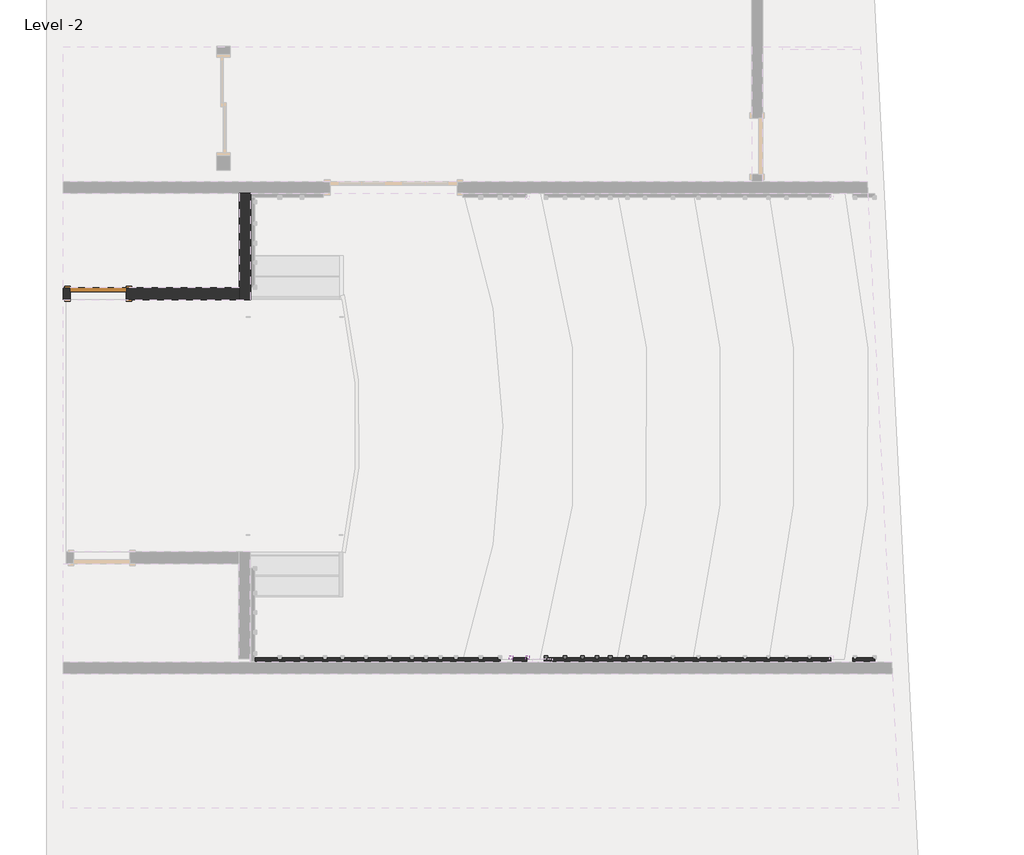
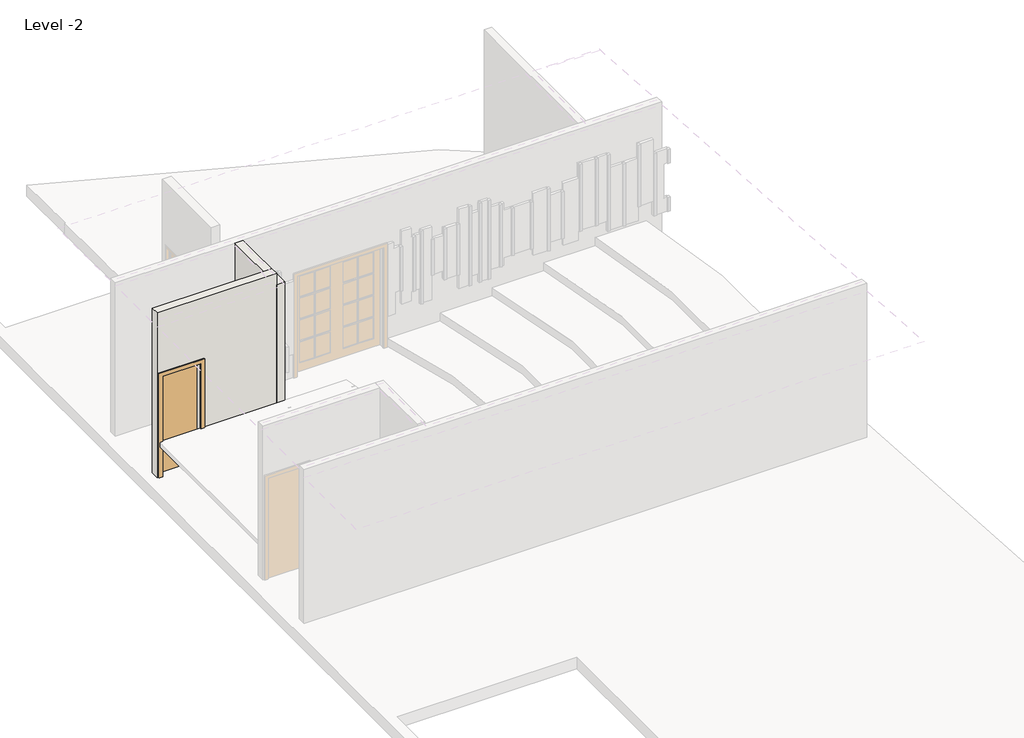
# One storey, part 2 of 6: 9 proxies, 3 walls, 1 door.
"""IFC4 building model written with IfcOpenShell, lengths in millimetres."""

from ifc_helpers import new_model, si_unit, frame, origin, place, context, project, spatial, polyline, outline, extrude, faceted_brep, transform, mapped, element, save
from components import m_single_flush_0762_x_2134mm_6e0fa8c7

model = new_model("IFC4")

# Units and contexts
model_context = context("Model", 3, world=origin())
ifc_project = project(units=[si_unit("LENGTHUNIT", "METRE", prefix="MILLI")], contexts=[model_context])

# Site, building, storey
site = spatial("IfcSite", under=ifc_project)
building = spatial("IfcBuilding", under=site)
storey = spatial("IfcBuildingStorey", under=building, Name="Level -2", Elevation=-7000.0)

# Proxies
placement = place(None, origin())
element("IfcBuildingElementProxy", 1, Name="Reveal", ObjectType="Reveal", at=placement, inside=storey, context=model_context, shape_type="SweptSolid", body=[
    extrude(outline(polyline([(6762.0430077, 180.1293333), (6762.0430077, 230.1293333), (6812.0430077, 230.1293333), (6812.0430077, 180.1293333), (6762.0430077, 180.1293333)])), frame((0.0, 0.0, -5930.7275331), z_axis=(0.0, 0.0, 1.0), x_axis=(1.0, 0.0, 0.0)), (0.0, 0.0, 1.0), 1080.0),
])
element("IfcBuildingElementProxy", 2, Name="Reveal", ObjectType="Reveal", at=placement, inside=storey, context=model_context, shape_type="SweptSolid", body=[
    extrude(outline(polyline([(7197.0430077, 180.1293333), (7197.0430077, 230.1293333), (7247.0430077, 230.1293333), (7247.0430077, 180.1293333), (7197.0430077, 180.1293333)])), frame((0.0, 0.0, -6230.7275331), z_axis=(0.0, 0.0, 1.0), x_axis=(1.0, 0.0, 0.0)), (0.0, 0.0, 1.0), 1680.0),
])
element("IfcBuildingElementProxy", 3, Name="Reveal", ObjectType="Reveal", at=placement, inside=storey, context=model_context, shape_type="SweptSolid", body=[
    extrude(outline(polyline([(6997.0430077, 180.1293333), (6997.0430077, 230.1293333), (7047.0430077, 230.1293333), (7047.0430077, 180.1293333), (6997.0430077, 180.1293333)])), frame((0.0, 0.0, -6230.7275331), z_axis=(0.0, 0.0, 1.0), x_axis=(1.0, 0.0, 0.0)), (0.0, 0.0, 1.0), 1680.0),
])
element("IfcBuildingElementProxy", 4, Name="Reveal", ObjectType="Reveal", at=placement, inside=storey, context=model_context, shape_type="SweptSolid", body=[
    extrude(outline(polyline([(6502.3539947, 180.1293333), (6502.3539947, 230.1293333), (6552.3539947, 230.1293333), (6552.3539947, 180.1293333), (6502.3539947, 180.1293333)])), frame((0.0, 0.0, -5930.7275331), z_axis=(0.0, 0.0, 1.0), x_axis=(1.0, 0.0, 0.0)), (0.0, 0.0, 1.0), 1080.0),
])
element("IfcBuildingElementProxy", 5, Name="Reveal", ObjectType="Reveal", at=placement, inside=storey, context=model_context, shape_type="SweptSolid", body=[
    extrude(outline(polyline([(6252.0430077, 180.1293333), (6252.0430077, 230.1293333), (6302.0430077, 230.1293333), (6302.0430077, 180.1293333), (6252.0430077, 180.1293333)])), frame((0.0, 0.0, -5630.7275331), z_axis=(0.0, 0.0, 1.0), x_axis=(1.0, 0.0, 0.0)), (0.0, 0.0, 1.0), 480.0),
])
element("IfcBuildingElementProxy", 6, Name="Reveal", ObjectType="Reveal", at=placement, inside=storey, context=model_context, shape_type="SweptSolid", body=[
    extrude(outline(polyline([(6027.0430077, 180.1293333), (6027.0430077, 230.1293333), (6077.0430077, 230.1293333), (6077.0430077, 180.1293333), (6027.0430077, 180.1293333)])), frame((0.0, 0.0, -5630.7275331), z_axis=(0.0, 0.0, 1.0), x_axis=(1.0, 0.0, 0.0)), (0.0, 0.0, 1.0), 480.0),
])
element("IfcBuildingElementProxy", 7, Name="Reveal", ObjectType="Reveal", at=placement, inside=storey, context=model_context, shape_type="SweptSolid", body=[
    extrude(outline(polyline([(7612.3539947, 180.1293333), (7612.3539947, 230.1293333), (7662.3539947, 230.1293333), (7662.3539947, 180.1293333), (7612.3539947, 180.1293333)])), frame((0.0, 0.0, -6050.7275331), z_axis=(0.0, 0.0, 1.0), x_axis=(1.0, 0.0, 0.0)), (0.0, 0.0, 1.0), 1320.0),
])
element("IfcBuildingElementProxy", 8, Name="Reveal", ObjectType="Reveal", at=placement, inside=storey, context=model_context, shape_type="SweptSolid", body=[
    extrude(outline(polyline([(7377.0430077, 180.1293333), (7377.0430077, 230.1293333), (7427.0430077, 230.1293333), (7427.0430077, 180.1293333), (7377.0430077, 180.1293333)])), frame((0.0, 0.0, -6230.7275331), z_axis=(0.0, 0.0, 1.0), x_axis=(1.0, 0.0, 0.0)), (0.0, 0.0, 1.0), 1680.0),
])
element("IfcBuildingElementProxy", 9, Name="Reveal", ObjectType="Reveal", at=placement, inside=storey, context=model_context, shape_type="SweptSolid", body=[
    extrude(outline(polyline([(7852.3539947, 180.1293333), (7852.3539947, 230.1293333), (7902.3539947, 230.1293333), (7902.3539947, 180.1293333), (7852.3539947, 180.1293333)])), frame((0.0, 0.0, -5890.7275331), z_axis=(0.0, 0.0, 1.0), x_axis=(1.0, 0.0, 0.0)), (0.0, 0.0, 1.0), 1000.0),
])

# Door
m_single_flush_0762_x_2134mm_shape = m_single_flush_0762_x_2134mm_6e0fa8c7(model_context)
element("IfcDoor", 10, ObjectType="M_Single-Flush : 0762 x 2134mm", at=placement, inside=storey, context=model_context, shape_type="MappedRepresentation", body=[
    mapped(m_single_flush_0762_x_2134mm_shape, transform((430.9709975, 5159.4754021, -7000.0), x_axis=(-1.0, 0.0, 0.0), y_axis=(0.0, -1.0, 0.0), z_axis=(0.0, 0.0, 1.0))),
])

# Walls
element("IfcWall", 11, ObjectType="kamposite5cm", at=placement, inside=storey, context=model_context, shape_type="Brep", body=[
    faceted_brep([(10402.0430077, 155.1293333, -4430.7275331), (10402.0430077, 155.1293333, -4730.7275331), (9802.0430077, 155.1293333, -4730.7275331), (9802.0430077, 155.1293333, -4430.7275331), (9202.0430077, 155.1293333, -4430.7275331), (9202.0430077, 155.1293333, -4730.7275331), (8902.0430077, 155.1293333, -4730.7275331), (8902.0430077, 155.1293333, -4890.7275331), (8602.0430077, 155.1293333, -4890.7275331), (8602.0430077, 155.1293333, -4730.7275331), (8302.0430077, 155.1293333, -4730.7275331), (8302.0430077, 155.1293333, -4890.7275331), (7702.0430077, 155.1293333, -4890.7275331), (7702.0430077, 155.1293333, -4730.7275331), (7402.0430077, 155.1293333, -4730.7275331), (7402.0430077, 155.1293333, -4550.7275331), (7222.0430077, 155.1293333, -4550.7275331), (7222.0430077, 155.1293333, -4730.7275331), (7022.0430077, 155.1293333, -4730.7275331), (7022.0430077, 155.1293333, -4550.7275331), (6802.0430077, 155.1293333, -4550.7275331), (6802.0430077, 155.1293333, -4850.7275331), (6502.0430077, 155.1293333, -4850.7275331), (6502.0430077, 155.1293333, -5150.7275331), (6262.0430077, 155.1293333, -5150.7275331), (6262.0430077, 155.1293333, -4970.7275331), (6082.0430077, 155.1293333, -4970.7275331), (6082.0430077, 155.1293333, -5150.7275331), (5902.0430077, 155.1293333, -5150.7275331), (5902.0430077, 155.1293333, -4919.396788), (5602.0430077, 155.1293333, -4919.396788), (5302.0430077, 155.1293333, -4919.396788), (5302.0430077, 155.1293333, -4619.396788), (5091.8852546, 155.1293333, -4619.396788), (5091.8852546, 155.1293333, -4799.396788), (4891.8852546, 155.1293333, -4799.396788), (4891.8852546, 155.1293333, -4619.396788), (4702.0430077, 155.1293333, -4619.396788), (4702.0430077, 155.1293333, -4919.396788), (4402.0430077, 155.1293333, -4919.396788), (4102.0430077, 155.1293333, -4919.396788), (4102.0430077, 155.1293333, -4619.396788), (3802.0430077, 155.1293333, -4619.396788), (3802.0430077, 155.1293333, -4319.396788), (3202.0430077, 155.1293333, -4319.396788), (3202.0430077, 155.1293333, -4619.396788), (2902.0430077, 155.1293333, -4619.396788), (2902.0430077, 155.1293333, -4919.396788), (2562.3539947, 155.1293333, -4919.396788), (2562.3539947, 155.1293333, -5862.0582782), (2902.0430077, 155.1293333, -5862.0582782), (2902.0430077, 155.1293333, -6162.0582782), (3202.0430077, 155.1293333, -6162.0582782), (3202.0430077, 155.1293333, -6462.0582782), (3802.0430077, 155.1293333, -6462.0582782), (3802.0430077, 155.1293333, -6162.0582782), (4102.0430077, 155.1293333, -6162.0582782), (4102.0430077, 155.1293333, -5862.0582782), (4402.0430077, 155.1293333, -5862.0582782), (4702.0430077, 155.1293333, -5862.0582782), (4702.0430077, 155.1293333, -6162.0582782), (4891.8852546, 155.1293333, -6162.0582782), (4891.8852546, 155.1293333, -5960.603212), (5091.8852546, 155.1293333, -5960.603212), (5091.8852546, 155.1293333, -6162.0582782), (5302.0430077, 155.1293333, -6162.0582782), (5302.0430077, 155.1293333, -5862.0582782), (5602.0430077, 155.1293333, -5862.0582782), (5902.0430077, 155.1293333, -5862.0582782), (5902.0430077, 155.1293333, -5630.7275331), (6082.0430077, 155.1293333, -5630.7275331), (6082.0430077, 155.1293333, -5810.7275331), (6262.0430077, 155.1293333, -5810.7275331), (6262.0430077, 155.1293333, -5630.7275331), (6502.0430077, 155.1293333, -5630.7275331), (6502.0430077, 155.1293333, -5930.7275331), (6802.0430077, 155.1293333, -5930.7275331), (6802.0430077, 155.1293333, -6230.7275331), (7022.0430077, 155.1293333, -6230.7275331), (7022.0430077, 155.1293333, -6050.7275331), (7222.0430077, 155.1293333, -6050.7275331), (7222.0430077, 155.1293333, -6230.7275331), (7402.0430077, 155.1293333, -6230.7275331), (7402.0430077, 155.1293333, -6050.7275331), (7702.0430077, 155.1293333, -6050.7275331), (7702.0430077, 155.1293333, -5890.7275331), (8302.0430077, 155.1293333, -5890.7275331), (8302.0430077, 155.1293333, -6050.7275331), (8602.0430077, 155.1293333, -6050.7275331), (8602.0430077, 155.1293333, -5890.7275331), (8902.0430077, 155.1293333, -5890.7275331), (8902.0430077, 155.1293333, -6050.7275331), (9202.0430077, 155.1293333, -6050.7275331), (9202.0430077, 155.1293333, -5850.7275331), (9802.0430077, 155.1293333, -5850.7275331), (9802.0430077, 155.1293333, -6050.7275331), (10402.0430077, 155.1293333, -6050.7275331), (10402.0430077, 155.1293333, -5750.7275331), (10702.0430077, 155.1293333, -5750.7275331), (10702.0430077, 155.1293333, -6050.7275331), (11002.0430077, 155.1293333, -6050.7275331), (11002.0430077, 155.1293333, -5750.7275331), (11122.0430077, 155.1293333, -5750.7275331), (11122.0430077, 155.1293333, -5030.7275331), (11002.0430077, 155.1293333, -5030.7275331), (11002.0430077, 155.1293333, -4730.7275331), (10702.0430077, 155.1293333, -4730.7275331), (10702.0430077, 155.1293333, -4430.7275331), (9202.0430077, 205.1293333, -4730.7275331), (9202.0430077, 205.1293333, -4430.7275331), (9212.3539947, 205.1293333, -4430.7275331), (9212.3539947, 205.1293333, -5850.7275331), (9202.0430077, 205.1293333, -5850.7275331), (9202.0430077, 205.1293333, -6050.7275331), (8902.0430077, 205.1293333, -6050.7275331), (8902.0430077, 205.1293333, -5890.7275331), (8907.0430077, 205.1293333, -5890.7275331), (8907.0430077, 205.1293333, -4890.7275331), (8902.0430077, 205.1293333, -4890.7275331), (8902.0430077, 205.1293333, -4730.7275331), (8302.0430077, 205.1293333, -4890.7275331), (8302.0430077, 205.1293333, -4730.7275331), (8577.0430077, 205.1293333, -4730.7275331), (8577.0430077, 205.1293333, -6050.7275331), (8302.0430077, 205.1293333, -6050.7275331), (8302.0430077, 205.1293333, -5890.7275331), (8282.3539947, 205.1293333, -5890.7275331), (8282.3539947, 205.1293333, -4890.7275331), (7702.0430077, 205.1293333, -4730.7275331), (7702.0430077, 205.1293333, -4890.7275331), (7852.3539947, 205.1293333, -4890.7275331), (7852.3539947, 205.1293333, -5890.7275331), (7702.0430077, 205.1293333, -5890.7275331), (7702.0430077, 205.1293333, -6050.7275331), (7662.3539947, 205.1293333, -6050.7275331), (7662.3539947, 205.1293333, -4730.7275331), (6802.0430077, 205.1293333, -4850.7275331), (6802.0430077, 205.1293333, -4550.7275331), (6997.0430077, 205.1293333, -4550.7275331), (6997.0430077, 205.1293333, -6230.7275331), (6802.0430077, 205.1293333, -6230.7275331), (6802.0430077, 205.1293333, -5930.7275331), (6812.0430077, 205.1293333, -5930.7275331), (6812.0430077, 205.1293333, -4850.7275331), (6502.0430077, 205.1293333, -5150.7275331), (6502.0430077, 205.1293333, -4850.7275331), (6502.3539947, 205.1293333, -4850.7275331), (6502.3539947, 205.1293333, -5930.7275331), (6502.0430077, 205.1293333, -5930.7275331), (6502.0430077, 205.1293333, -5630.7275331), (6302.0430077, 205.1293333, -5630.7275331), (6302.0430077, 205.1293333, -5150.7275331), (3802.0430077, 205.1293333, -4319.396788), (3802.0430077, 205.1293333, -4619.396788), (4052.3539947, 205.1293333, -4619.396788), (4052.3539947, 205.1293333, -6162.0582782), (3802.0430077, 205.1293333, -6162.0582782), (3802.0430077, 205.1293333, -6462.0582782), (3782.3539947, 205.1293333, -6462.0582782), (3782.3539947, 205.1293333, -4319.396788), (10402.0430077, 205.1293333, -5750.7275331), (10402.0430077, 205.1293333, -6050.7275331), (10142.3539947, 205.1293333, -6050.7275331), (10142.3539947, 205.1293333, -4730.7275331), (10392.3539947, 205.1293333, -4730.7275331), (10392.3539947, 205.1293333, -5750.7275331), (10702.0430077, 205.1293333, -6050.7275331), (10702.0430077, 205.1293333, -5750.7275331), (10442.3539947, 205.1293333, -5750.7275331), (10442.3539947, 205.1293333, -4430.7275331), (10702.0430077, 205.1293333, -4430.7275331), (10702.0430077, 205.1293333, -4730.7275331), (10712.3539947, 205.1293333, -4730.7275331), (10712.3539947, 205.1293333, -6050.7275331), (11122.0430077, 205.1293333, -5030.7275331), (11122.0430077, 205.1293333, -5750.7275331), (11027.0430077, 205.1293333, -5750.7275331), (11027.0430077, 205.1293333, -5030.7275331), (2562.3539947, 205.1293333, -5862.0582782), (2562.3539947, 205.1293333, -4919.396788), (2877.0430077, 205.1293333, -4919.396788), (2877.0430077, 205.1293333, -5862.0582782), (6262.0430077, 205.1293333, -4970.7275331), (6262.0430077, 205.1293333, -5150.7275331), (6252.0430077, 205.1293333, -5150.7275331), (6252.0430077, 205.1293333, -5630.7275331), (6262.0430077, 205.1293333, -5630.7275331), (6262.0430077, 205.1293333, -5810.7275331), (6082.0430077, 205.1293333, -5810.7275331), (6082.0430077, 205.1293333, -5630.7275331), (6077.0430077, 205.1293333, -5630.7275331), (6077.0430077, 205.1293333, -5150.7275331), (6082.0430077, 205.1293333, -5150.7275331), (6082.0430077, 205.1293333, -4970.7275331), (3177.0430077, 205.1293333, -4619.396788), (3177.0430077, 205.1293333, -6162.0582782), (2927.0430077, 205.1293333, -6162.0582782), (2927.0430077, 205.1293333, -4619.396788), (3227.0430077, 205.1293333, -6462.0582782), (3227.0430077, 205.1293333, -4319.396788), (3492.3539947, 205.1293333, -4319.396788), (3492.3539947, 205.1293333, -6462.0582782), (3542.3539947, 205.1293333, -6462.0582782), (3542.3539947, 205.1293333, -4319.396788), (3732.3539947, 205.1293333, -4319.396788), (3732.3539947, 205.1293333, -6462.0582782), (4102.3539947, 205.1293333, -5862.0582782), (4102.3539947, 205.1293333, -4919.396788), (4372.3539947, 205.1293333, -4919.396788), (4372.3539947, 205.1293333, -5862.0582782), (4422.3539947, 205.1293333, -5862.0582782), (4422.3539947, 205.1293333, -4919.396788), (4677.0430077, 205.1293333, -4919.396788), (4677.0430077, 205.1293333, -5862.0582782), (4727.0430077, 205.1293333, -6162.0582782), (4727.0430077, 205.1293333, -4619.396788), (4866.8852546, 205.1293333, -4619.396788), (4866.8852546, 205.1293333, -6162.0582782), (4916.8852546, 205.1293333, -5960.603212), (4916.8852546, 205.1293333, -4799.396788), (5066.8852546, 205.1293333, -4799.396788), (5066.8852546, 205.1293333, -5960.603212), (5602.0430077, 205.1293333, -5862.0582782), (5327.0430077, 205.1293333, -5862.0582782), (5327.0430077, 205.1293333, -4919.396788), (5602.0430077, 205.1293333, -4919.396788), (5612.3539947, 205.1293333, -4919.396788), (5612.3539947, 205.1293333, -5862.0582782), (5277.0430077, 205.1293333, -4619.396788), (5277.0430077, 205.1293333, -6162.0582782), (5116.8852546, 205.1293333, -6162.0582782), (5116.8852546, 205.1293333, -4619.396788), (5662.3539947, 205.1293333, -5862.0582782), (5662.3539947, 205.1293333, -4919.396788), (5877.0430077, 205.1293333, -4919.396788), (5877.0430077, 205.1293333, -5862.0582782), (5927.0430077, 205.1293333, -5630.7275331), (5927.0430077, 205.1293333, -5150.7275331), (6027.0430077, 205.1293333, -5150.7275331), (6027.0430077, 205.1293333, -5630.7275331), (6762.0430077, 205.1293333, -4850.7275331), (6762.0430077, 205.1293333, -5930.7275331), (6552.3539947, 205.1293333, -5930.7275331), (6552.3539947, 205.1293333, -4850.7275331), (7197.0430077, 205.1293333, -4730.7275331), (7197.0430077, 205.1293333, -6050.7275331), (7047.0430077, 205.1293333, -6050.7275331), (7047.0430077, 205.1293333, -4730.7275331), (7247.0430077, 205.1293333, -6230.7275331), (7247.0430077, 205.1293333, -4550.7275331), (7377.0430077, 205.1293333, -4550.7275331), (7377.0430077, 205.1293333, -6230.7275331), (7612.3539947, 205.1293333, -4730.7275331), (7612.3539947, 205.1293333, -6050.7275331), (7427.0430077, 205.1293333, -6050.7275331), (7427.0430077, 205.1293333, -4730.7275331), (7902.3539947, 205.1293333, -5890.7275331), (7902.3539947, 205.1293333, -4890.7275331), (8232.3539947, 205.1293333, -4890.7275331), (8232.3539947, 205.1293333, -5890.7275331), (8627.0430077, 205.1293333, -5890.7275331), (8627.0430077, 205.1293333, -4890.7275331), (8857.0430077, 205.1293333, -4890.7275331), (8857.0430077, 205.1293333, -5890.7275331), (9532.3539947, 205.1293333, -4430.7275331), (9532.3539947, 205.1293333, -5850.7275331), (9262.3539947, 205.1293333, -5850.7275331), (9262.3539947, 205.1293333, -4430.7275331), (9582.3539947, 205.1293333, -5850.7275331), (9582.3539947, 205.1293333, -4430.7275331), (9777.0430077, 205.1293333, -4430.7275331), (9777.0430077, 205.1293333, -5850.7275331), (10092.3539947, 205.1293333, -4730.7275331), (10092.3539947, 205.1293333, -6050.7275331), (9827.0430077, 205.1293333, -6050.7275331), (9827.0430077, 205.1293333, -4730.7275331), (10762.3539947, 205.1293333, -6050.7275331), (10762.3539947, 205.1293333, -4730.7275331), (10977.0430077, 205.1293333, -4730.7275331), (10977.0430077, 205.1293333, -6050.7275331), (10402.0430077, 180.1293333, -4430.7275331), (10402.0430077, 180.1293333, -4730.7275331), (10392.3539947, 180.1293333, -4730.7275331), (10142.3539947, 180.1293333, -4730.7275331), (10092.3539947, 180.1293333, -4730.7275331), (9827.0430077, 180.1293333, -4730.7275331), (9802.0430077, 180.1293333, -4730.7275331), (9802.0430077, 180.1293333, -4430.7275331), (9777.0430077, 180.1293333, -4430.7275331), (9582.3539947, 180.1293333, -4430.7275331), (9532.3539947, 180.1293333, -4430.7275331), (9262.3539947, 180.1293333, -4430.7275331), (9212.3539947, 180.1293333, -4430.7275331), (8902.0430077, 180.1293333, -4890.7275331), (8857.0430077, 180.1293333, -4890.7275331), (8627.0430077, 180.1293333, -4890.7275331), (8602.0430077, 180.1293333, -4890.7275331), (8602.0430077, 180.1293333, -4730.7275331), (8577.0430077, 180.1293333, -4730.7275331), (8282.3539947, 180.1293333, -4890.7275331), (8232.3539947, 180.1293333, -4890.7275331), (7902.3539947, 180.1293333, -4890.7275331), (7852.3539947, 180.1293333, -4890.7275331), (7662.3539947, 180.1293333, -4730.7275331), (7612.3539947, 180.1293333, -4730.7275331), (7427.0430077, 180.1293333, -4730.7275331), (7402.0430077, 180.1293333, -4730.7275331), (7402.0430077, 180.1293333, -4550.7275331), (7377.0430077, 180.1293333, -4550.7275331), (7247.0430077, 180.1293333, -4550.7275331), (7222.0430077, 180.1293333, -4550.7275331), (6802.0430077, 180.1293333, -4850.7275331), (6762.0430077, 180.1293333, -4850.7275331), (6552.3539947, 180.1293333, -4850.7275331), (6502.3539947, 180.1293333, -4850.7275331), (6302.0430077, 180.1293333, -5150.7275331), (6262.0430077, 180.1293333, -5150.7275331), (5902.0430077, 180.1293333, -5150.7275331), (5902.0430077, 180.1293333, -4919.396788), (5877.0430077, 180.1293333, -4919.396788), (5662.3539947, 180.1293333, -4919.396788), (5612.3539947, 180.1293333, -4919.396788), (5327.0430077, 180.1293333, -4919.396788), (5302.0430077, 180.1293333, -4919.396788), (5302.0430077, 180.1293333, -4619.396788), (5277.0430077, 180.1293333, -4619.396788), (5116.8852546, 180.1293333, -4619.396788), (5091.8852546, 180.1293333, -4619.396788), (4891.8852546, 180.1293333, -4619.396788), (4866.8852546, 180.1293333, -4619.396788), (4727.0430077, 180.1293333, -4619.396788), (4702.0430077, 180.1293333, -4619.396788), (4702.0430077, 180.1293333, -4919.396788), (4677.0430077, 180.1293333, -4919.396788), (4422.3539947, 180.1293333, -4919.396788), (4402.0430077, 180.1293333, -4919.396788), (4372.3539947, 180.1293333, -4919.396788), (4102.3539947, 180.1293333, -4919.396788), (4102.0430077, 180.1293333, -4919.396788), (4102.0430077, 180.1293333, -4619.396788), (4052.3539947, 180.1293333, -4619.396788), (3782.3539947, 180.1293333, -4319.396788), (3732.3539947, 180.1293333, -4319.396788), (3542.3539947, 180.1293333, -4319.396788), (3492.3539947, 180.1293333, -4319.396788), (3227.0430077, 180.1293333, -4319.396788), (3202.0430077, 180.1293333, -4319.396788), (3202.0430077, 180.1293333, -4619.396788), (3177.0430077, 180.1293333, -4619.396788), (2927.0430077, 180.1293333, -4619.396788), (2902.0430077, 180.1293333, -4619.396788), (2902.0430077, 180.1293333, -4919.396788), (2877.0430077, 180.1293333, -4919.396788), (2877.0430077, 180.1293333, -5862.0582782), (2902.0430077, 180.1293333, -5862.0582782), (2902.0430077, 180.1293333, -6162.0582782), (2927.0430077, 180.1293333, -6162.0582782), (3177.0430077, 180.1293333, -6162.0582782), (3202.0430077, 180.1293333, -6162.0582782), (3202.0430077, 180.1293333, -6462.0582782), (3227.0430077, 180.1293333, -6462.0582782), (3492.3539947, 180.1293333, -6462.0582782), (3542.3539947, 180.1293333, -6462.0582782), (3732.3539947, 180.1293333, -6462.0582782), (3782.3539947, 180.1293333, -6462.0582782), (4052.3539947, 180.1293333, -6162.0582782), (4102.0430077, 180.1293333, -6162.0582782), (4102.0430077, 180.1293333, -5862.0582782), (4102.3539947, 180.1293333, -5862.0582782), (4372.3539947, 180.1293333, -5862.0582782), (4402.0430077, 180.1293333, -5862.0582782), (4422.3539947, 180.1293333, -5862.0582782), (4677.0430077, 180.1293333, -5862.0582782), (4702.0430077, 180.1293333, -5862.0582782), (4702.0430077, 180.1293333, -6162.0582782), (4727.0430077, 180.1293333, -6162.0582782), (4866.8852546, 180.1293333, -6162.0582782), (4891.8852546, 180.1293333, -6162.0582782), (5091.8852546, 180.1293333, -6162.0582782), (5116.8852546, 180.1293333, -6162.0582782), (5277.0430077, 180.1293333, -6162.0582782), (5302.0430077, 180.1293333, -6162.0582782), (5302.0430077, 180.1293333, -5862.0582782), (5327.0430077, 180.1293333, -5862.0582782), (5612.3539947, 180.1293333, -5862.0582782), (5662.3539947, 180.1293333, -5862.0582782), (5877.0430077, 180.1293333, -5862.0582782), (5902.0430077, 180.1293333, -5862.0582782), (5902.0430077, 180.1293333, -5630.7275331), (6262.0430077, 180.1293333, -5630.7275331), (6302.0430077, 180.1293333, -5630.7275331), (6502.3539947, 180.1293333, -5930.7275331), (6552.3539947, 180.1293333, -5930.7275331), (6762.0430077, 180.1293333, -5930.7275331), (6802.0430077, 180.1293333, -5930.7275331), (7222.0430077, 180.1293333, -6230.7275331), (7247.0430077, 180.1293333, -6230.7275331), (7377.0430077, 180.1293333, -6230.7275331), (7402.0430077, 180.1293333, -6230.7275331), (7402.0430077, 180.1293333, -6050.7275331), (7427.0430077, 180.1293333, -6050.7275331), (7612.3539947, 180.1293333, -6050.7275331), (7662.3539947, 180.1293333, -6050.7275331), (7852.3539947, 180.1293333, -5890.7275331), (7902.3539947, 180.1293333, -5890.7275331), (8232.3539947, 180.1293333, -5890.7275331), (8282.3539947, 180.1293333, -5890.7275331), (8577.0430077, 180.1293333, -6050.7275331), (8602.0430077, 180.1293333, -6050.7275331), (8602.0430077, 180.1293333, -5890.7275331), (8627.0430077, 180.1293333, -5890.7275331), (8857.0430077, 180.1293333, -5890.7275331), (8902.0430077, 180.1293333, -5890.7275331), (9212.3539947, 180.1293333, -5850.7275331), (9262.3539947, 180.1293333, -5850.7275331), (9532.3539947, 180.1293333, -5850.7275331), (9582.3539947, 180.1293333, -5850.7275331), (9777.0430077, 180.1293333, -5850.7275331), (9802.0430077, 180.1293333, -5850.7275331), (9802.0430077, 180.1293333, -6050.7275331), (9827.0430077, 180.1293333, -6050.7275331), (10092.3539947, 180.1293333, -6050.7275331), (10142.3539947, 180.1293333, -6050.7275331), (10402.0430077, 180.1293333, -5750.7275331), (10442.3539947, 180.1293333, -5750.7275331), (10712.3539947, 180.1293333, -6050.7275331), (10762.3539947, 180.1293333, -6050.7275331), (10977.0430077, 180.1293333, -6050.7275331), (11002.0430077, 180.1293333, -6050.7275331), (11002.0430077, 180.1293333, -5750.7275331), (11027.0430077, 180.1293333, -5750.7275331), (11027.0430077, 180.1293333, -5030.7275331), (11002.0430077, 180.1293333, -5030.7275331), (11002.0430077, 180.1293333, -4730.7275331), (10977.0430077, 180.1293333, -4730.7275331), (10762.3539947, 180.1293333, -4730.7275331), (10712.3539947, 180.1293333, -4730.7275331), (10442.3539947, 180.1293333, -4430.7275331), (7222.0430077, 180.1293333, -4730.7275331), (7197.0430077, 180.1293333, -4730.7275331), (7047.0430077, 180.1293333, -4730.7275331), (7022.0430077, 180.1293333, -4730.7275331), (7022.0430077, 180.1293333, -4550.7275331), (6997.0430077, 180.1293333, -4550.7275331), (5091.8852546, 180.1293333, -4799.396788), (5066.8852546, 180.1293333, -4799.396788), (4916.8852546, 180.1293333, -4799.396788), (4891.8852546, 180.1293333, -4799.396788), (4891.8852546, 180.1293333, -5960.603212), (4916.8852546, 180.1293333, -5960.603212), (5066.8852546, 180.1293333, -5960.603212), (5091.8852546, 180.1293333, -5960.603212), (6997.0430077, 180.1293333, -6230.7275331), (7022.0430077, 180.1293333, -6230.7275331), (7022.0430077, 180.1293333, -6050.7275331), (7047.0430077, 180.1293333, -6050.7275331), (7197.0430077, 180.1293333, -6050.7275331), (7222.0430077, 180.1293333, -6050.7275331), (6077.0430077, 180.1293333, -5150.7275331), (6027.0430077, 180.1293333, -5150.7275331), (5927.0430077, 180.1293333, -5150.7275331), (5927.0430077, 180.1293333, -5630.7275331), (6027.0430077, 180.1293333, -5630.7275331), (6077.0430077, 180.1293333, -5630.7275331), (6812.0430077, 180.1293333, -5930.7275331), (6812.0430077, 180.1293333, -4850.7275331), (6252.0430077, 180.1293333, -5630.7275331), (6252.0430077, 180.1293333, -5150.7275331), (8907.0430077, 180.1293333, -5890.7275331), (8907.0430077, 180.1293333, -4890.7275331), (10392.3539947, 180.1293333, -5750.7275331)], [[[0, 1, 2, 3, 4, 5, 6, 7, 8, 9, 10, 11, 12, 13, 14, 15, 16, 17, 18, 19, 20, 21, 22, 23, 24, 25, 26, 27, 28, 29, 30, 31, 32, 33, 34, 35, 36, 37, 38, 39, 40, 41, 42, 43, 44, 45, 46, 47, 48, 49, 50, 51, 52, 53, 54, 55, 56, 57, 58, 59, 60, 61, 62, 63, 64, 65, 66, 67, 68, 69, 70, 71, 72, 73, 74, 75, 76, 77, 78, 79, 80, 81, 82, 83, 84, 85, 86, 87, 88, 89, 90, 91, 92, 93, 94, 95, 96, 97, 98, 99, 100, 101, 102, 103, 104, 105, 106, 107]], [[108, 109, 110, 111, 112, 113, 114, 115, 116, 117, 118, 119]], [[120, 121, 122, 123, 124, 125, 126, 127]], [[128, 129, 130, 131, 132, 133, 134, 135]], [[136, 137, 138, 139, 140, 141, 142, 143]], [[144, 145, 146, 147, 148, 149, 150, 151]], [[152, 153, 154, 155, 156, 157, 158, 159]], [[160, 161, 162, 163, 164, 165]], [[166, 167, 168, 169, 170, 171, 172, 173]], [[174, 175, 176, 177]], [[178, 179, 180, 181]], [[182, 183, 184, 185, 186, 187, 188, 189, 190, 191, 192, 193]], [[194, 195, 196, 197]], [[198, 199, 200, 201]], [[202, 203, 204, 205]], [[206, 207, 208, 209]], [[210, 211, 212, 213]], [[214, 215, 216, 217]], [[218, 219, 220, 221]], [[222, 223, 224, 225, 226, 227]], [[228, 229, 230, 231]], [[232, 233, 234, 235]], [[236, 237, 238, 239]], [[240, 241, 242, 243]], [[244, 245, 246, 247]], [[248, 249, 250, 251]], [[252, 253, 254, 255]], [[256, 257, 258, 259]], [[260, 261, 262, 263]], [[264, 265, 266, 267]], [[268, 269, 270, 271]], [[272, 273, 274, 275]], [[276, 277, 278, 279]], [[1, 0, 280, 281]], [[2, 1, 281, 282, 164, 163, 283, 284, 272, 275, 285, 286]], [[3, 2, 286, 287]], [[4, 3, 287, 288, 270, 269, 289, 290, 264, 267, 291, 292, 110, 109]], [[5, 4, 109, 108]], [[6, 5, 108, 119]], [[7, 6, 119, 118, 293]], [[8, 7, 293, 294, 262, 261, 295, 296]], [[9, 8, 296, 297]], [[10, 9, 297, 298, 122, 121]], [[11, 10, 121, 120]], [[12, 11, 120, 127, 299, 300, 258, 257, 301, 302, 130, 129]], [[13, 12, 129, 128]], [[14, 13, 128, 135, 303, 304, 252, 255, 305, 306]], [[15, 14, 306, 307]], [[16, 15, 307, 308, 250, 249, 309, 310]], [[21, 20, 137, 136, 311]], [[22, 21, 311, 312, 240, 243, 313, 314, 146, 145]], [[23, 22, 145, 144]], [[24, 23, 144, 151, 315, 316]], [[29, 28, 317, 318]], [[30, 29, 318, 319, 234, 233, 320, 321, 226, 225]], [[31, 30, 225, 224, 322, 323]], [[32, 31, 323, 324]], [[33, 32, 324, 325, 228, 231, 326, 327]], [[37, 36, 328, 329, 216, 215, 330, 331]], [[38, 37, 331, 332]], [[39, 38, 332, 333, 212, 211, 334, 335]], [[40, 39, 335, 336, 208, 207, 337, 338]], [[41, 40, 338, 339]], [[42, 41, 339, 340, 154, 153]], [[43, 42, 153, 152]], [[44, 43, 152, 159, 341, 342, 204, 203, 343, 344, 200, 199, 345, 346]], [[45, 44, 346, 347]], [[46, 45, 347, 348, 194, 197, 349, 350]], [[47, 46, 350, 351]], [[48, 47, 351, 352, 180, 179]], [[50, 49, 178, 181, 353, 354]], [[51, 50, 354, 355]], [[52, 51, 355, 356, 196, 195, 357, 358]], [[53, 52, 358, 359]], [[54, 53, 359, 360, 198, 201, 361, 362, 202, 205, 363, 364, 158, 157]], [[55, 54, 157, 156]], [[56, 55, 156, 155, 365, 366]], [[57, 56, 366, 367]], [[58, 57, 367, 368, 206, 209, 369, 370]], [[59, 58, 370, 371, 210, 213, 372, 373]], [[60, 59, 373, 374]], [[61, 60, 374, 375, 214, 217, 376, 377]], [[65, 64, 378, 379, 230, 229, 380, 381]], [[66, 65, 381, 382]], [[67, 66, 382, 383, 223, 222]], [[68, 67, 222, 227, 384, 385, 232, 235, 386, 387]], [[69, 68, 387, 388]], [[74, 73, 389, 390, 150, 149]], [[75, 74, 149, 148]], [[76, 75, 148, 147, 391, 392, 242, 241, 393, 394]], [[77, 76, 394, 141, 140]], [[82, 81, 395, 396, 248, 251, 397, 398]], [[83, 82, 398, 399]], [[84, 83, 399, 400, 254, 253, 401, 402, 134, 133]], [[85, 84, 133, 132]], [[86, 85, 132, 131, 403, 404, 256, 259, 405, 406, 126, 125]], [[87, 86, 125, 124]], [[88, 87, 124, 123, 407, 408]], [[89, 88, 408, 409]], [[90, 89, 409, 410, 260, 263, 411, 412]], [[91, 90, 412, 115, 114]], [[92, 91, 114, 113]], [[93, 92, 113, 112]], [[94, 93, 112, 111, 413, 414, 266, 265, 415, 416, 268, 271, 417, 418]], [[95, 94, 418, 419]], [[96, 95, 419, 420, 274, 273, 421, 422, 162, 161]], [[97, 96, 161, 160, 423]], [[98, 97, 423, 424, 168, 167]], [[99, 98, 167, 166]], [[100, 99, 166, 173, 425, 426, 276, 279, 427, 428]], [[101, 100, 428, 429]], [[102, 101, 429, 430, 176, 175]], [[103, 102, 175, 174]], [[104, 103, 174, 177, 431, 432]], [[105, 104, 432, 433]], [[106, 105, 433, 434, 278, 277, 435, 436, 172, 171]], [[107, 106, 171, 170]], [[0, 107, 170, 169, 437, 280]], [[49, 48, 179, 178]], [[17, 16, 310, 438]], [[18, 17, 438, 439, 244, 247, 440, 441]], [[19, 18, 441, 442]], [[20, 19, 442, 443, 138, 137]], [[34, 33, 327, 444]], [[35, 34, 444, 445, 220, 219, 446, 447]], [[36, 35, 447, 328]], [[62, 61, 377, 448]], [[63, 62, 448, 449, 218, 221, 450, 451]], [[64, 63, 451, 378]], [[78, 77, 140, 139, 452, 453]], [[79, 78, 453, 454]], [[80, 79, 454, 455, 246, 245, 456, 457]], [[81, 80, 457, 395]], [[25, 24, 316, 183, 182]], [[26, 25, 182, 193]], [[27, 26, 193, 192]], [[28, 27, 192, 191, 458, 459, 238, 237, 460, 317]], [[70, 69, 388, 461, 236, 239, 462, 463, 190, 189]], [[71, 70, 189, 188]], [[72, 71, 188, 187]], [[73, 72, 187, 186, 389]], [[348, 357, 195, 194]], [[360, 345, 199, 198]], [[345, 360, 359, 358, 357, 348, 347, 346]], [[344, 361, 201, 200]], [[362, 343, 203, 202]], [[361, 344, 343, 362]], [[342, 363, 205, 204]], [[364, 341, 159, 158]], [[363, 342, 341, 364]], [[352, 353, 181, 180]], [[356, 349, 197, 196]], [[349, 356, 355, 354, 353, 352, 351, 350]], [[340, 365, 155, 154]], [[368, 337, 207, 206]], [[365, 340, 339, 338, 337, 368, 367, 366]], [[336, 369, 209, 208]], [[371, 334, 211, 210]], [[369, 336, 335, 334, 371, 370]], [[333, 372, 213, 212]], [[375, 330, 215, 214]], [[330, 375, 374, 373, 372, 333, 332, 331]], [[329, 376, 217, 216]], [[449, 446, 219, 218]], [[376, 329, 328, 447, 446, 449, 448, 377]], [[325, 380, 229, 228]], [[383, 322, 224, 223]], [[380, 325, 324, 323, 322, 383, 382, 381]], [[321, 384, 227, 226]], [[385, 320, 233, 232]], [[384, 321, 320, 385]], [[319, 386, 235, 234]], [[461, 460, 237, 236]], [[386, 319, 318, 317, 460, 461, 388, 387]], [[464, 142, 141, 394]], [[143, 465, 311, 136]], [[312, 393, 241, 240]], [[464, 465, 143, 142]], [[393, 312, 311, 465, 464, 394]], [[439, 456, 245, 244]], [[396, 309, 249, 248]], [[309, 396, 395, 457, 456, 439, 438, 310]], [[443, 452, 139, 138]], [[455, 440, 247, 246]], [[452, 443, 442, 441, 440, 455, 454, 453]], [[314, 391, 147, 146]], [[392, 313, 243, 242]], [[391, 314, 313, 392]], [[185, 466, 389, 186]], [[467, 184, 183, 316]], [[467, 466, 185, 184]], [[390, 315, 151, 150]], [[466, 467, 316, 315, 390, 389]], [[459, 462, 239, 238]], [[463, 458, 191, 190]], [[462, 459, 458, 463]], [[445, 450, 221, 220]], [[379, 326, 231, 230]], [[326, 379, 378, 451, 450, 445, 444, 327]], [[304, 401, 253, 252]], [[402, 303, 135, 134]], [[401, 304, 303, 402]], [[308, 397, 251, 250]], [[400, 305, 255, 254]], [[397, 308, 307, 306, 305, 400, 399, 398]], [[302, 403, 131, 130]], [[404, 301, 257, 256]], [[403, 302, 301, 404]], [[300, 405, 259, 258]], [[406, 299, 127, 126]], [[405, 300, 299, 406]], [[298, 407, 123, 122]], [[410, 295, 261, 260]], [[407, 298, 297, 296, 295, 410, 409, 408]], [[468, 116, 115, 412]], [[117, 469, 293, 118]], [[294, 411, 263, 262]], [[468, 469, 117, 116]], [[411, 294, 293, 469, 468, 412]], [[290, 415, 265, 264]], [[416, 289, 269, 268]], [[415, 290, 289, 416]], [[292, 413, 111, 110]], [[414, 291, 267, 266]], [[413, 292, 291, 414]], [[165, 470, 423, 160]], [[470, 165, 164, 282]], [[424, 437, 169, 168]], [[437, 424, 423, 470, 282, 281, 280]], [[284, 421, 273, 272]], [[422, 283, 163, 162]], [[421, 284, 283, 422]], [[271, 270, 288, 417]], [[420, 285, 275, 274]], [[285, 420, 419, 418, 417, 288, 287, 286]], [[436, 425, 173, 172]], [[426, 435, 277, 276]], [[425, 436, 435, 426]], [[434, 427, 279, 278]], [[430, 431, 177, 176]], [[427, 434, 433, 432, 431, 430, 429, 428]]]),
])
element("IfcWall", 12, ObjectType="Generic - 20cm-granit2side", at=placement, inside=storey, context=model_context, shape_type="Brep", body=[
    faceted_brep([(2346.6368117, 6526.33213, -7000.0), (2346.6368117, 5239.4754021, -7000.0), (2346.6368117, 5079.4754021, -7000.0), (2346.6368117, 5079.4754021, -3741.0), (2346.6368117, 6526.33213, -3741.0), (2506.6368117, 5079.4754021, -7000.0), (2506.6368117, 6526.33213, -7000.0), (2506.6368117, 6526.33213, -3741.0), (2506.6368117, 5079.4754021, -3741.0)], [[[0, 1, 2, 3, 4]], [[5, 6, 7, 8]], [[2, 1, 0, 6, 5]], [[6, 0, 4, 7]], [[2, 5, 8, 3]], [[4, 3, 8, 7]]]),
])
element("IfcWall", 13, ObjectType="Generic - 20cm-granit2side", at=placement, inside=storey, context=model_context, shape_type="Brep", body=[
    faceted_brep([(49.9709975, 5239.4754021, -4866.0), (49.9709975, 5239.4754021, -7000.0), (-50.0290025, 5239.4754021, -7000.0), (-50.0290025, 5239.4754021, -3500.0), (2346.6368117, 5239.4754021, -3500.0), (2346.6368117, 5239.4754021, -7000.0), (811.9709975, 5239.4754021, -7000.0), (811.9709975, 5239.4754021, -4866.0), (-50.0290025, 5079.4754021, -7000.0), (49.9709975, 5079.4754021, -7000.0), (49.9709975, 5079.4754021, -4866.0), (811.9709975, 5079.4754021, -4866.0), (811.9709975, 5079.4754021, -7000.0), (2346.6368117, 5079.4754021, -7000.0), (2346.6368117, 5079.4754021, -3741.0), (2346.6368117, 5079.4754021, -3500.0), (-50.0290025, 5079.4754021, -3500.0)], [[[0, 1, 2, 3, 4, 5, 6, 7]], [[8, 9, 10, 11, 12, 13, 14, 15, 16]], [[6, 5, 13, 12]], [[2, 1, 9, 8]], [[4, 3, 16, 15]], [[5, 4, 15, 14, 13]], [[3, 2, 8, 16]], [[10, 9, 1, 0]], [[11, 10, 0, 7]], [[12, 11, 7, 6]]]),
])

save(model, "model.ifc")
